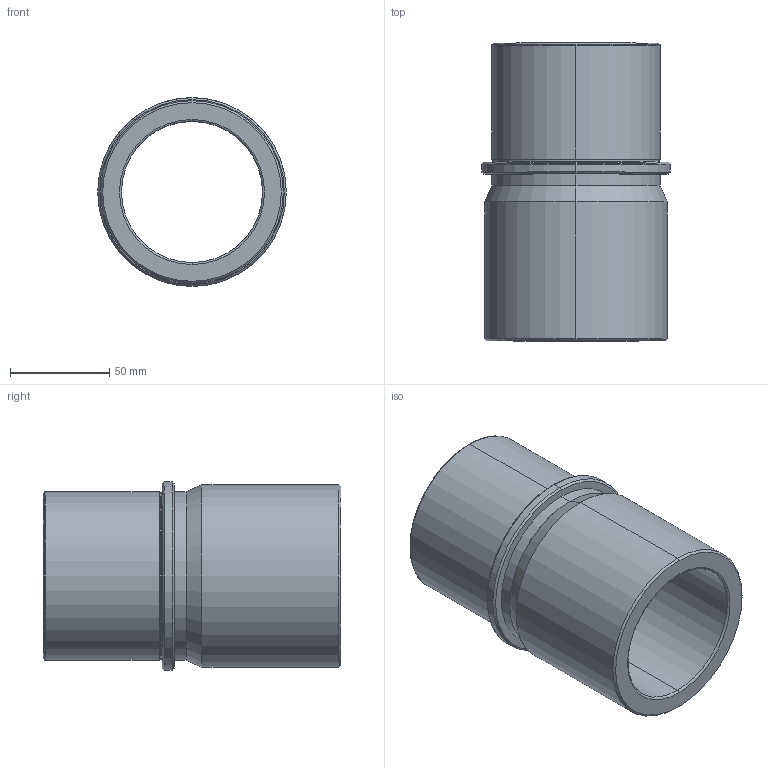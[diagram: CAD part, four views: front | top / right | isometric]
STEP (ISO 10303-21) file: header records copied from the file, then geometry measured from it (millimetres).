
FILE_DESCRIPTION( ( 'STEP AP203' ), '1' );
FILE_NAME( 'D:/Delta 3 D/D27/D27 - 63x150x60.step', '2003-01-03T00:37:31', ( ' ' ), ( ' ' ), 'XStep 1.0', ' ', ' ' );
FILE_SCHEMA( ( 'CONFIG_CONTROL_DESIGN' ) );
Length unit declared in the file: metre
Products named in the file (1): 1
Bounding box: 95 x 150 x 95 mm (x, y, z)
Volume: 336819.6 mm3; surface area: 82079.8 mm2
Topology: 1 solids, 1 shells, 40 faces, 80 edges, 46 vertices
Faces by surface type: revolution 22, bspline 18
Entity records: 1263 total; most frequent: CARTESIAN_POINT 433, ORIENTED_EDGE 160, DIRECTION 146, EDGE_CURVE 80, AXIS2_PLACEMENT_3D 51, CIRCLE 50, EDGE_LOOP 46, VERTEX_POINT 46
